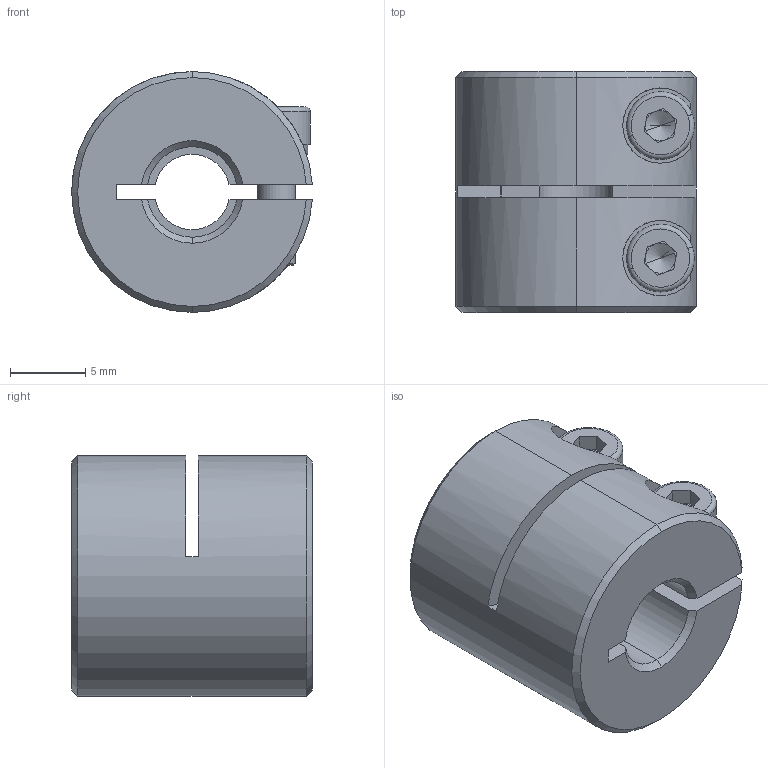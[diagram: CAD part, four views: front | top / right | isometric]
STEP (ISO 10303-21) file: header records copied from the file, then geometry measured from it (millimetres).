
FILE_DESCRIPTION (( 'STEP AP203' ), '1' );
FILE_NAME ('LL-B-D16L16-5-6.STEP', '2021-11-03T02:40:44', ( '' ), ( '' ), 'SwSTEP 2.0', 'SolidWorks 2018', '' );
FILE_SCHEMA (( 'CONFIG_CONTROL_DESIGN' ));
Length unit declared in the file: millimetre
Products named in the file (1): LL-B-D16L16-5-6
Bounding box: 15.98 x 16 x 16 mm (x, y, z)
Volume: 2611.9 mm3; surface area: 2018.4 mm2
Topology: 1 solids, 1 shells, 121 faces, 313 edges, 196 vertices
Faces by surface type: plane 52, cylinder 45, cone 20, torus 4
Entity records: 3948 total; most frequent: CARTESIAN_POINT 879, DIRECTION 653, ORIENTED_EDGE 618, EDGE_CURVE 309, AXIS2_PLACEMENT_3D 254, VERTEX_POINT 196, LINE 145, VECTOR 145
